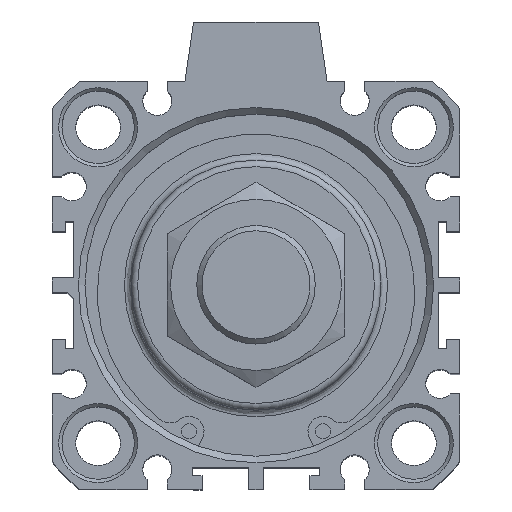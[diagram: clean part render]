
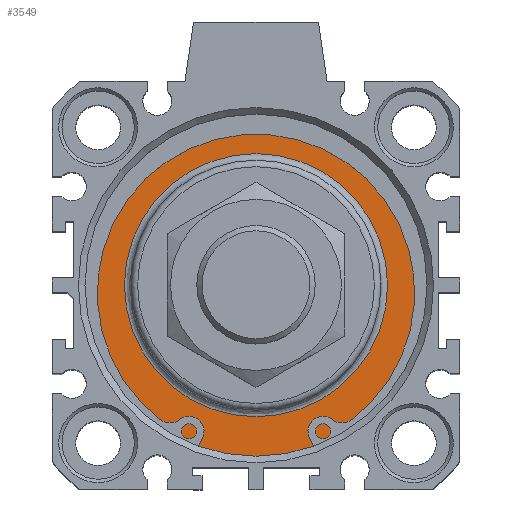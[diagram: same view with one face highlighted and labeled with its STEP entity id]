
A CAD part, top view. The second image highlights one B-rep face of the part: STEP entity #3549.
In plain terms, the highlighted planar face has unit normal (0, 0, 1).
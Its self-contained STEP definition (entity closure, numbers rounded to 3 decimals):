
#3498=CARTESIAN_POINT('',(-0.12,20.837,74.3));
#3499=VERTEX_POINT('',#3498);
#3500=CARTESIAN_POINT('',(-0.12,0.837,74.3));
#3501=DIRECTION('',(0.0,0.0,1.0));
#3502=DIRECTION('',(0.0,-1.0,0.0));
#3503=AXIS2_PLACEMENT_3D('',#3500,#3501,#3502);
#3504=CIRCLE('',#3503,20.);
#3505=EDGE_CURVE('',#3499,#3499,#3504,.T.);
#3530=CARTESIAN_POINT('',(-0.12,23.337,74.3));
#3531=DIRECTION('',(0.0,0.0,1.0));
#3532=DIRECTION('',(1.0,0.0,0.0));
#3533=AXIS2_PLACEMENT_3D('',#3530,#3531,#3532);
#3534=PLANE('',#3533);
#3535=CARTESIAN_POINT('',(-0.12,26.837,74.3));
#3536=VERTEX_POINT('',#3535);
#3537=CARTESIAN_POINT('',(-0.12,0.837,74.3));
#3538=DIRECTION('',(0.0,0.0,-1.0));
#3539=DIRECTION('',(0.0,1.0,0.0));
#3540=AXIS2_PLACEMENT_3D('',#3537,#3538,#3539);
#3541=CIRCLE('',#3540,26.);
#3542=EDGE_CURVE('',#3536,#3536,#3541,.T.);
#3543=ORIENTED_EDGE('',*,*,#3542,.F.);
#3544=EDGE_LOOP('',(#3543));
#3545=FACE_OUTER_BOUND('',#3544,.T.);
#3546=ORIENTED_EDGE('',*,*,#3505,.F.);
#3547=EDGE_LOOP('',(#3546));
#3548=FACE_BOUND('',#3547,.T.);
#3549=ADVANCED_FACE('',(#3545,#3548),#3534,.T.);
